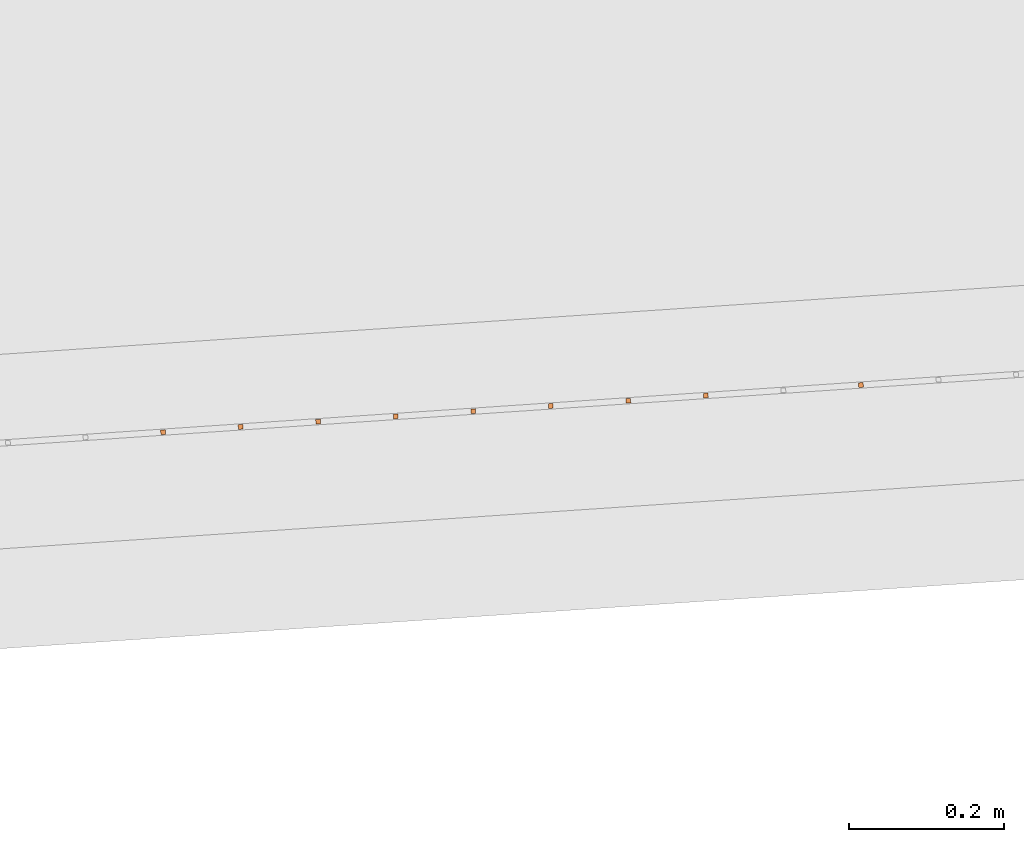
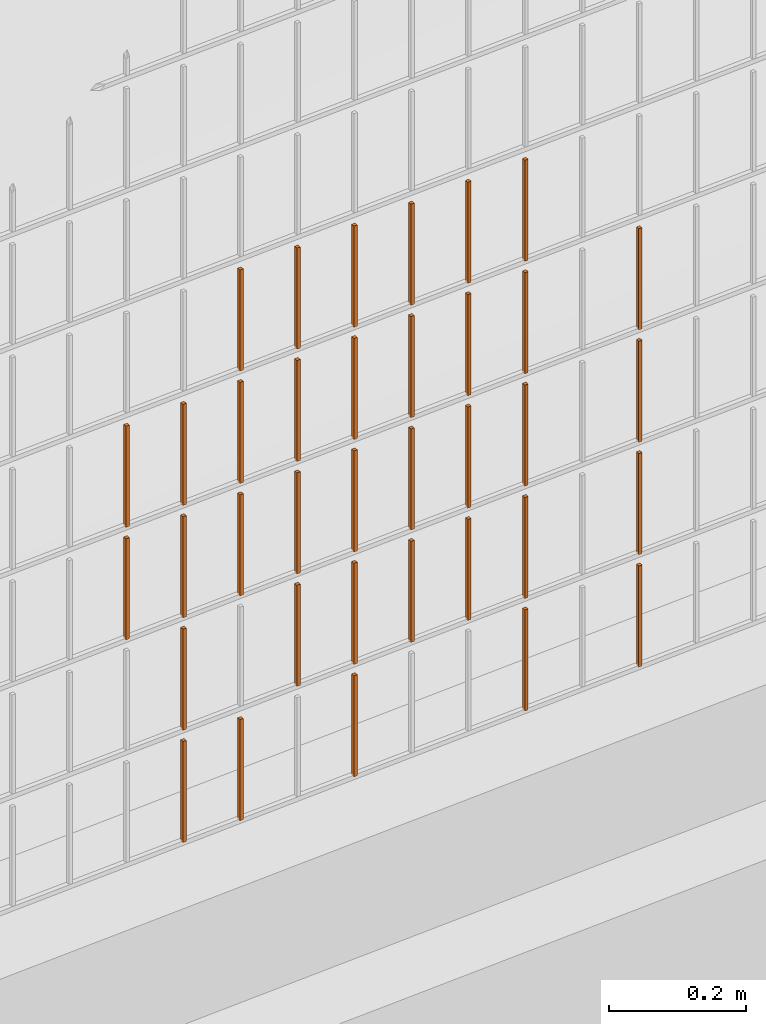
# One storey, part 142 of 1809: 36 proxies, 1 element without a shape of its own.
"""IFC2X3 building model written with IfcOpenShell, lengths in millimetres."""

from ifc_helpers import new_model, entity, si_unit, converted_unit, derived_unit, money_unit, direction, frame, origin_with_axes, place, context, subcontext, project, spatial, faceted_brep, source, transform, mapped, material, type_object, element, aggregate, save


model = new_model("IFC2X3")

# Units and contexts
model_context = context("Model", 3, precision=0.01, world=origin_with_axes(), true_north=direction((0.0, 1.0)))
body_context = subcontext(model_context, "Body", "Model", "MODEL_VIEW")
ifc_project = project(units=[si_unit("LENGTHUNIT", "METRE", prefix="MILLI"), si_unit("AREAUNIT", "SQUARE_METRE"), si_unit("VOLUMEUNIT", "CUBIC_METRE"), converted_unit("PLANEANGLEUNIT", "DEGREE", entity("IfcPlaneAngleMeasure", 0.0174532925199), si_unit("PLANEANGLEUNIT", "RADIAN"), dimensions=[0, 0, 0, 0, 0, 0, 0]), si_unit("SOLIDANGLEUNIT", "STERADIAN"), money_unit("EUR"), converted_unit("TIMEUNIT", "Year", entity("IfcTimeMeasure", 31556926.0), si_unit("TIMEUNIT", "SECOND"), dimensions=[0, 0, 1, 0, 0, 0, 0]), si_unit("MASSUNIT", "GRAM", prefix="KILO"), si_unit("THERMODYNAMICTEMPERATUREUNIT", "DEGREE_CELSIUS"), si_unit("LUMINOUSINTENSITYUNIT", "LUMEN"), si_unit("ENERGYUNIT", "JOULE", prefix="MEGA"), derived_unit("THERMALCONDUCTANCEUNIT", [(si_unit("POWERUNIT", "WATT"), 1), (si_unit("LENGTHUNIT", "METRE"), -1), (si_unit("THERMODYNAMICTEMPERATUREUNIT", "KELVIN"), -1)]), derived_unit("SPECIFICHEATCAPACITYUNIT", [(si_unit("ENERGYUNIT", "JOULE"), 1), (si_unit("MASSUNIT", "GRAM", prefix="KILO"), -1), (si_unit("THERMODYNAMICTEMPERATUREUNIT", "KELVIN"), -1)]), derived_unit("MASSDENSITYUNIT", [(si_unit("MASSUNIT", "GRAM", prefix="KILO"), 1), (si_unit("VOLUMEUNIT", "CUBIC_METRE"), -1)])], contexts=[model_context])

# Site, building, storey
site_placement = place(None, origin_with_axes())
site = spatial("IfcSite", under=ifc_project, at=site_placement, Name="Politse- ja Piirivalveameti ning Päästeameti ühishoone", CompositionType="ELEMENT")
building_placement = place(site_placement, origin_with_axes())
building = spatial("IfcBuilding", under=site, at=building_placement, Name="Politse- ja Piirivalveameti ning Päästeameti ühishoone", CompositionType="ELEMENT")
storey_placement = place(building_placement, origin_with_axes())
storey = spatial("IfcBuildingStorey", under=building, at=storey_placement, Name="Esimene korrus", CompositionType="ELEMENT", Elevation=0.0)

# Proxies
building_element_proxy_type_1 = type_object("IfcBuildingElementProxyType", Name="Railing Type", PredefinedType="NOTDEFINED")
proxy_1_placement = place(storey_placement, frame((89252.001212, -29183.4766571, 203.661247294), z_axis=(0.0, 0.0, 1.0), x_axis=(1.0, 0.0, 0.0)))
proxy_1 = element("IfcBuildingElementProxy", 1, at=proxy_1_placement, inside=storey, type_object=building_element_proxy_type_1, Name="PIIRDEAED")
ifc_material = material(Name="ET-03_Raud")
building_element_proxy_type_2 = type_object("IfcBuildingElementProxyType", Name="IfcBuildingElementProxy", PredefinedType="NOTDEFINED")
shared_shape_1 = source(origin_with_axes(), body_context, "Body", "Brep", [
    faceted_brep([(3.0, 3.0, -0.000752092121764), (-3.0, 3.0, -0.000752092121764), (-3.0, 3.0, 179.99926046), (3.0, 3.0, 179.99926046), (3.0, -3.0, 0.000752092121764), (-3.0, -3.0, 0.000752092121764), (-3.0, -3.0, 180.000764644), (3.0, -3.0, 180.000764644)], [[[0, 1, 2, 3]], [[0, 4, 5, 1]], [[1, 5, 6, 2]], [[3, 2, 6, 7]], [[4, 0, 3, 7]], [[5, 4, 7, 6]]]),
])
proxy_2_placement = place(proxy_1_placement, frame((-85432.0182831, -23068.3851878, 805.767999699), z_axis=(0.0, 0.0, 1.0), x_axis=(1.0, 0.0, 0.0)))
proxy_2 = element("IfcBuildingElementProxy", 2, at=proxy_2_placement, type_object=building_element_proxy_type_2, material=ifc_material, Name="BALUSTER - 001", context=body_context, shape_type="MappedRepresentation", body=[
    mapped(shared_shape_1, transform((0.0, 0.0, 0.0), x_axis=(-0.0673926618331, 0.997726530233, 0.0), y_axis=(-0.997726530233, -0.0673926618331, 0.0), z_axis=(0.0, 0.0, 1.0))),
])
shared_shape_2 = source(origin_with_axes(), body_context, "Body", "Brep", [
    faceted_brep([(3.0, 3.0, -0.000752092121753), (-3.0, 3.0, -0.000752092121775), (-3.0, 3.0, 179.99926046), (3.0, 3.0, 179.99926046), (3.0, -3.0, 0.000752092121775), (-3.0, -3.0, 0.000752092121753), (-3.0, -3.0, 180.000764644), (3.0, -3.0, 180.000764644)], [[[0, 1, 2, 3]], [[0, 4, 5, 1]], [[1, 5, 6, 2]], [[3, 2, 6, 7]], [[4, 0, 3, 7]], [[5, 4, 7, 6]]]),
])
proxy_3_placement = place(proxy_1_placement, frame((-85930.8815483, -23102.0815187, 805.642651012), z_axis=(0.0, 0.0, 1.0), x_axis=(1.0, 0.0, 0.0)))
proxy_3 = element("IfcBuildingElementProxy", 3, at=proxy_3_placement, type_object=building_element_proxy_type_2, material=ifc_material, Name="BALUSTER - 001", context=body_context, shape_type="MappedRepresentation", body=[
    mapped(shared_shape_2, transform((0.0, 0.0, 0.0), x_axis=(-0.0673926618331, 0.997726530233, 0.0), y_axis=(-0.997726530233, -0.0673926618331, 0.0), z_axis=(0.0, 0.0, 1.0))),
])
shared_shape_3 = source(origin_with_axes(), body_context, "Body", "Brep", [
    faceted_brep([(3.0, 3.0, -0.000752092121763), (-3.0, 3.0, -0.000752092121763), (-3.0, 3.0, 179.99926046), (3.0, 3.0, 179.99926046), (3.0, -3.0, 0.000752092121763), (-3.0, -3.0, 0.000752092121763), (-3.0, -3.0, 180.000764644), (3.0, -3.0, 180.000764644)], [[[0, 1, 2, 3]], [[0, 4, 5, 1]], [[1, 5, 6, 2]], [[3, 2, 6, 7]], [[4, 0, 3, 7]], [[5, 4, 7, 6]]]),
])
proxy_4_placement = place(proxy_1_placement, frame((-85232.4729771, -23054.9066555, 205.818139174), z_axis=(0.0, 0.0, 1.0), x_axis=(1.0, 0.0, 0.0)))
proxy_4 = element("IfcBuildingElementProxy", 4, at=proxy_4_placement, type_object=building_element_proxy_type_2, material=ifc_material, Name="BALUSTER - 001", context=body_context, shape_type="MappedRepresentation", body=[
    mapped(shared_shape_3, transform((0.0, 0.0, 0.0), x_axis=(-0.0673926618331, 0.997726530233, 0.0), y_axis=(-0.997726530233, -0.0673926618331, 0.0), z_axis=(0.0, 0.0, 1.0))),
])
proxy_5_placement = place(proxy_1_placement, frame((-85232.4729771, -23054.9066555, 405.818139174), z_axis=(0.0, 0.0, 1.0), x_axis=(1.0, 0.0, 0.0)))
proxy_5 = element("IfcBuildingElementProxy", 5, at=proxy_5_placement, type_object=building_element_proxy_type_2, material=ifc_material, Name="BALUSTER - 001", context=body_context, shape_type="MappedRepresentation", body=[
    mapped(shared_shape_3, transform((0.0, 0.0, 0.0), x_axis=(-0.0673926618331, 0.997726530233, 0.0), y_axis=(-0.997726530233, -0.0673926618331, 0.0), z_axis=(0.0, 0.0, 1.0))),
])
proxy_6_placement = place(proxy_1_placement, frame((-85232.4729771, -23054.9066555, 605.818139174), z_axis=(0.0, 0.0, 1.0), x_axis=(1.0, 0.0, 0.0)))
proxy_6 = element("IfcBuildingElementProxy", 6, at=proxy_6_placement, type_object=building_element_proxy_type_2, material=ifc_material, Name="BALUSTER - 001", context=body_context, shape_type="MappedRepresentation", body=[
    mapped(shared_shape_3, transform((0.0, 0.0, 0.0), x_axis=(-0.0673926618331, 0.997726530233, 0.0), y_axis=(-0.997726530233, -0.0673926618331, 0.0), z_axis=(0.0, 0.0, 1.0))),
])
shared_shape_4 = source(origin_with_axes(), body_context, "Body", "Brep", [
    faceted_brep([(3.0, 3.0, -0.000752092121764), (-3.0, 3.0, -0.000752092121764), (-3.0, 3.0, 179.99926046), (3.0, 3.0, 179.99926046), (3.0, -3.0, 0.000752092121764), (-3.0, -3.0, 0.000752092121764), (-3.0, -3.0, 180.000764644), (3.0, -3.0, 180.000764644)], [[[0, 1, 2, 3]], [[0, 4, 5, 1]], [[1, 5, 6, 2]], [[3, 2, 6, 7]], [[4, 0, 3, 7]], [[5, 4, 7, 6]]]),
])
proxy_7_placement = place(proxy_1_placement, frame((-85232.4729771, -23054.9066555, 5.81813917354), z_axis=(0.0, 0.0, 1.0), x_axis=(1.0, 0.0, 0.0)))
proxy_7 = element("IfcBuildingElementProxy", 7, at=proxy_7_placement, type_object=building_element_proxy_type_2, material=ifc_material, Name="BALUSTER - 001", context=body_context, shape_type="MappedRepresentation", body=[
    mapped(shared_shape_4, transform((0.0, 0.0, 0.0), x_axis=(-0.0673926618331, 0.997726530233, 0.0), y_axis=(-0.997726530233, -0.0673926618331, 0.0), z_axis=(0.0, 0.0, 1.0))),
])
shared_shape_5 = source(origin_with_axes(), body_context, "Body", "Brep", [
    faceted_brep([(3.0, 3.0, -0.000752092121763), (-3.0, 3.0, -0.000752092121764), (-3.0, 3.0, 179.99926046), (3.0, 3.0, 179.99926046), (3.0, -3.0, 0.000752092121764), (-3.0, -3.0, 0.000752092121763), (-3.0, -3.0, 180.000764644), (3.0, -3.0, 180.000764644)], [[[0, 1, 2, 3]], [[0, 4, 5, 1]], [[1, 5, 6, 2]], [[3, 2, 6, 7]], [[4, 0, 3, 7]], [[5, 4, 7, 6]]]),
])
proxy_8_placement = place(proxy_1_placement, frame((-85432.0182831, -23068.3851878, 5.76799969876), z_axis=(0.0, 0.0, 1.0), x_axis=(1.0, 0.0, 0.0)))
proxy_8 = element("IfcBuildingElementProxy", 8, at=proxy_8_placement, type_object=building_element_proxy_type_2, material=ifc_material, Name="BALUSTER - 001", context=body_context, shape_type="MappedRepresentation", body=[
    mapped(shared_shape_5, transform((0.0, 0.0, 0.0), x_axis=(-0.0673926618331, 0.997726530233, 0.0), y_axis=(-0.997726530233, -0.0673926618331, 0.0), z_axis=(0.0, 0.0, 1.0))),
])
shared_shape_6 = source(origin_with_axes(), body_context, "Body", "Brep", [
    faceted_brep([(3.0, 3.0, -0.000752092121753), (-3.0, 3.0, -0.000752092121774), (-3.0, 3.0, 179.99926046), (3.0, 3.0, 179.99926046), (3.0, -3.0, 0.000752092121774), (-3.0, -3.0, 0.000752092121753), (-3.0, -3.0, 180.000764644), (3.0, -3.0, 180.000764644)], [[[0, 1, 2, 3]], [[0, 4, 5, 1]], [[1, 5, 6, 2]], [[3, 2, 6, 7]], [[4, 0, 3, 7]], [[5, 4, 7, 6]]]),
])
proxy_9_placement = place(proxy_1_placement, frame((-85731.3362422, -23088.6029864, 5.69279048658), z_axis=(0.0, 0.0, 1.0), x_axis=(1.0, 0.0, 0.0)))
proxy_9 = element("IfcBuildingElementProxy", 9, at=proxy_9_placement, type_object=building_element_proxy_type_2, material=ifc_material, Name="BALUSTER - 001", context=body_context, shape_type="MappedRepresentation", body=[
    mapped(shared_shape_6, transform((0.0, 0.0, 0.0), x_axis=(-0.0673926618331, 0.997726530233, 0.0), y_axis=(-0.997726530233, -0.0673926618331, 0.0), z_axis=(0.0, 0.0, 1.0))),
])
shared_shape_7 = source(origin_with_axes(), body_context, "Body", "Brep", [
    faceted_brep([(3.0, 3.0, -0.000752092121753), (-3.0, 3.0, -0.000752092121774), (-3.0, 3.0, 179.99926046), (3.0, 3.0, 179.99926046), (3.0, -3.0, 0.000752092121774), (-3.0, -3.0, 0.000752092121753), (-3.0, -3.0, 180.000764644), (3.0, -3.0, 180.000764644)], [[[0, 1, 2, 3]], [[0, 4, 5, 1]], [[1, 5, 6, 2]], [[3, 2, 6, 7]], [[4, 0, 3, 7]], [[5, 4, 7, 6]]]),
])
proxy_10_placement = place(proxy_1_placement, frame((-85930.8815483, -23102.0815187, 5.6426510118), z_axis=(0.0, 0.0, 1.0), x_axis=(1.0, 0.0, 0.0)))
proxy_10 = element("IfcBuildingElementProxy", 10, at=proxy_10_placement, type_object=building_element_proxy_type_2, material=ifc_material, Name="BALUSTER - 001", context=body_context, shape_type="MappedRepresentation", body=[
    mapped(shared_shape_7, transform((0.0, 0.0, 0.0), x_axis=(-0.0673926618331, 0.997726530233, 0.0), y_axis=(-0.997726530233, -0.0673926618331, 0.0), z_axis=(0.0, 0.0, 1.0))),
])
shared_shape_8 = source(origin_with_axes(), body_context, "Body", "Brep", [
    faceted_brep([(3.0, 3.0, -0.000752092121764), (-3.0, 3.0, -0.000752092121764), (-3.0, 3.0, 179.99926046), (3.0, 3.0, 179.99926046), (3.0, -3.0, 0.000752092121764), (-3.0, -3.0, 0.000752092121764), (-3.0, -3.0, 180.000764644), (3.0, -3.0, 180.000764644)], [[[0, 1, 2, 3]], [[0, 4, 5, 1]], [[1, 5, 6, 2]], [[3, 2, 6, 7]], [[4, 0, 3, 7]], [[5, 4, 7, 6]]]),
])
proxy_11_placement = place(proxy_1_placement, frame((-86030.6542013, -23108.8207849, 5.6175812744), z_axis=(0.0, 0.0, 1.0), x_axis=(1.0, 0.0, 0.0)))
proxy_11 = element("IfcBuildingElementProxy", 11, at=proxy_11_placement, type_object=building_element_proxy_type_2, material=ifc_material, Name="BALUSTER - 001", context=body_context, shape_type="MappedRepresentation", body=[
    mapped(shared_shape_8, transform((0.0, 0.0, 0.0), x_axis=(-0.0673926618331, 0.997726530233, 0.0), y_axis=(-0.997726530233, -0.0673926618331, 0.0), z_axis=(0.0, 0.0, 1.0))),
])
proxy_12_placement = place(proxy_1_placement, frame((-86030.6542013, -23108.8207849, 205.617581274), z_axis=(0.0, 0.0, 1.0), x_axis=(1.0, 0.0, 0.0)))
proxy_12 = element("IfcBuildingElementProxy", 12, at=proxy_12_placement, type_object=building_element_proxy_type_2, material=ifc_material, Name="BALUSTER - 001", context=body_context, shape_type="MappedRepresentation", body=[
    mapped(shared_shape_8, transform((0.0, 0.0, 0.0), x_axis=(-0.0673926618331, 0.997726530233, 0.0), y_axis=(-0.997726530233, -0.0673926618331, 0.0), z_axis=(0.0, 0.0, 1.0))),
])
shared_shape_9 = source(origin_with_axes(), body_context, "Body", "Brep", [
    faceted_brep([(3.0, 3.0, -0.000752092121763), (-3.0, 3.0, -0.000752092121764), (-3.0, 3.0, 179.99926046), (3.0, 3.0, 179.99926046), (3.0, -3.0, 0.000752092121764), (-3.0, -3.0, 0.000752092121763), (-3.0, -3.0, 180.000764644), (3.0, -3.0, 180.000764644)], [[[0, 1, 2, 3]], [[0, 4, 5, 1]], [[1, 5, 6, 2]], [[3, 2, 6, 7]], [[4, 0, 3, 7]], [[5, 4, 7, 6]]]),
])
proxy_13_placement = place(proxy_1_placement, frame((-85432.0182831, -23068.3851878, 205.767999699), z_axis=(0.0, 0.0, 1.0), x_axis=(1.0, 0.0, 0.0)))
proxy_13 = element("IfcBuildingElementProxy", 13, at=proxy_13_placement, type_object=building_element_proxy_type_2, material=ifc_material, Name="BALUSTER - 001", context=body_context, shape_type="MappedRepresentation", body=[
    mapped(shared_shape_9, transform((0.0, 0.0, 0.0), x_axis=(-0.0673926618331, 0.997726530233, 0.0), y_axis=(-0.997726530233, -0.0673926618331, 0.0), z_axis=(0.0, 0.0, 1.0))),
])
shared_shape_10 = source(origin_with_axes(), body_context, "Body", "Brep", [
    faceted_brep([(3.0, 3.0, -0.000752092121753), (-3.0, 3.0, -0.000752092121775), (-3.0, 3.0, 179.99926046), (3.0, 3.0, 179.99926046), (3.0, -3.0, 0.000752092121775), (-3.0, -3.0, 0.000752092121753), (-3.0, -3.0, 180.000764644), (3.0, -3.0, 180.000764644)], [[[0, 1, 2, 3]], [[0, 4, 5, 1]], [[1, 5, 6, 2]], [[3, 2, 6, 7]], [[4, 0, 3, 7]], [[5, 4, 7, 6]]]),
])
proxy_14_placement = place(proxy_1_placement, frame((-85531.7909362, -23075.124454, 205.742929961), z_axis=(0.0, 0.0, 1.0), x_axis=(1.0, 0.0, 0.0)))
proxy_14 = element("IfcBuildingElementProxy", 14, at=proxy_14_placement, type_object=building_element_proxy_type_2, material=ifc_material, Name="BALUSTER - 001", context=body_context, shape_type="MappedRepresentation", body=[
    mapped(shared_shape_10, transform((0.0, 0.0, 0.0), x_axis=(-0.0673926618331, 0.997726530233, 0.0), y_axis=(-0.997726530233, -0.0673926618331, 0.0), z_axis=(0.0, 0.0, 1.0))),
])
shared_shape_11 = source(origin_with_axes(), body_context, "Body", "Brep", [
    faceted_brep([(3.0, 3.0, -0.000752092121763), (-3.0, 3.0, -0.000752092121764), (-3.0, 3.0, 179.99926046), (3.0, 3.0, 179.99926046), (3.0, -3.0, 0.000752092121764), (-3.0, -3.0, 0.000752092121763), (-3.0, -3.0, 180.000764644), (3.0, -3.0, 180.000764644)], [[[0, 1, 2, 3]], [[0, 4, 5, 1]], [[1, 5, 6, 2]], [[3, 2, 6, 7]], [[4, 0, 3, 7]], [[5, 4, 7, 6]]]),
])
proxy_15_placement = place(proxy_1_placement, frame((-85631.5635892, -23081.8637202, 205.717860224), z_axis=(0.0, 0.0, 1.0), x_axis=(1.0, 0.0, 0.0)))
proxy_15 = element("IfcBuildingElementProxy", 15, at=proxy_15_placement, type_object=building_element_proxy_type_2, material=ifc_material, Name="BALUSTER - 001", context=body_context, shape_type="MappedRepresentation", body=[
    mapped(shared_shape_11, transform((0.0, 0.0, 0.0), x_axis=(-0.0673926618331, 0.997726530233, 0.0), y_axis=(-0.997726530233, -0.0673926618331, 0.0), z_axis=(0.0, 0.0, 1.0))),
])
proxy_16_placement = place(proxy_1_placement, frame((-85432.0182831, -23068.3851878, 405.767999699), z_axis=(0.0, 0.0, 1.0), x_axis=(1.0, 0.0, 0.0)))
proxy_16 = element("IfcBuildingElementProxy", 16, at=proxy_16_placement, type_object=building_element_proxy_type_2, material=ifc_material, Name="BALUSTER - 001", context=body_context, shape_type="MappedRepresentation", body=[
    mapped(shared_shape_11, transform((0.0, 0.0, 0.0), x_axis=(-0.0673926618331, 0.997726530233, 0.0), y_axis=(-0.997726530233, -0.0673926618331, 0.0), z_axis=(0.0, 0.0, 1.0))),
])
proxy_17_placement = place(proxy_1_placement, frame((-85631.5635892, -23081.8637202, 605.717860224), z_axis=(0.0, 0.0, 1.0), x_axis=(1.0, 0.0, 0.0)))
proxy_17 = element("IfcBuildingElementProxy", 17, at=proxy_17_placement, type_object=building_element_proxy_type_2, material=ifc_material, Name="BALUSTER - 001", context=body_context, shape_type="MappedRepresentation", body=[
    mapped(shared_shape_11, transform((0.0, 0.0, 0.0), x_axis=(-0.0673926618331, 0.997726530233, 0.0), y_axis=(-0.997726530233, -0.0673926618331, 0.0), z_axis=(0.0, 0.0, 1.0))),
])
shared_shape_12 = source(origin_with_axes(), body_context, "Body", "Brep", [
    faceted_brep([(3.0, 3.0, -0.000752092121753), (-3.0, 3.0, -0.000752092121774), (-3.0, 3.0, 179.99926046), (3.0, 3.0, 179.99926046), (3.0, -3.0, 0.000752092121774), (-3.0, -3.0, 0.000752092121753), (-3.0, -3.0, 180.000764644), (3.0, -3.0, 180.000764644)], [[[0, 1, 2, 3]], [[0, 4, 5, 1]], [[1, 5, 6, 2]], [[3, 2, 6, 7]], [[4, 0, 3, 7]], [[5, 4, 7, 6]]]),
])
proxy_18_placement = place(proxy_1_placement, frame((-85731.3362422, -23088.6029864, 205.692790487), z_axis=(0.0, 0.0, 1.0), x_axis=(1.0, 0.0, 0.0)))
proxy_18 = element("IfcBuildingElementProxy", 18, at=proxy_18_placement, type_object=building_element_proxy_type_2, material=ifc_material, Name="BALUSTER - 001", context=body_context, shape_type="MappedRepresentation", body=[
    mapped(shared_shape_12, transform((0.0, 0.0, 0.0), x_axis=(-0.0673926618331, 0.997726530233, 0.0), y_axis=(-0.997726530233, -0.0673926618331, 0.0), z_axis=(0.0, 0.0, 1.0))),
])
proxy_19_placement = place(proxy_1_placement, frame((-85731.3362422, -23088.6029864, 405.692790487), z_axis=(0.0, 0.0, 1.0), x_axis=(1.0, 0.0, 0.0)))
proxy_19 = element("IfcBuildingElementProxy", 19, at=proxy_19_placement, type_object=building_element_proxy_type_2, material=ifc_material, Name="BALUSTER - 001", context=body_context, shape_type="MappedRepresentation", body=[
    mapped(shared_shape_12, transform((0.0, 0.0, 0.0), x_axis=(-0.0673926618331, 0.997726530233, 0.0), y_axis=(-0.997726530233, -0.0673926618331, 0.0), z_axis=(0.0, 0.0, 1.0))),
])
proxy_20_placement = place(proxy_1_placement, frame((-85930.8815483, -23102.0815187, 405.642651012), z_axis=(0.0, 0.0, 1.0), x_axis=(1.0, 0.0, 0.0)))
proxy_20 = element("IfcBuildingElementProxy", 20, at=proxy_20_placement, type_object=building_element_proxy_type_2, material=ifc_material, Name="BALUSTER - 001", context=body_context, shape_type="MappedRepresentation", body=[
    mapped(shared_shape_12, transform((0.0, 0.0, 0.0), x_axis=(-0.0673926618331, 0.997726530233, 0.0), y_axis=(-0.997726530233, -0.0673926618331, 0.0), z_axis=(0.0, 0.0, 1.0))),
])
proxy_21_placement = place(proxy_1_placement, frame((-85930.8815483, -23102.0815187, 605.642651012), z_axis=(0.0, 0.0, 1.0), x_axis=(1.0, 0.0, 0.0)))
proxy_21 = element("IfcBuildingElementProxy", 21, at=proxy_21_placement, type_object=building_element_proxy_type_2, material=ifc_material, Name="BALUSTER - 001", context=body_context, shape_type="MappedRepresentation", body=[
    mapped(shared_shape_12, transform((0.0, 0.0, 0.0), x_axis=(-0.0673926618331, 0.997726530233, 0.0), y_axis=(-0.997726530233, -0.0673926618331, 0.0), z_axis=(0.0, 0.0, 1.0))),
])
shared_shape_13 = source(origin_with_axes(), body_context, "Body", "Brep", [
    faceted_brep([(3.0, 3.0, -0.000752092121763), (-3.0, 3.0, -0.000752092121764), (-3.0, 3.0, 179.99926046), (3.0, 3.0, 179.99926046), (3.0, -3.0, 0.000752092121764), (-3.0, -3.0, 0.000752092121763), (-3.0, -3.0, 180.000764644), (3.0, -3.0, 180.000764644)], [[[0, 1, 2, 3]], [[0, 4, 5, 1]], [[1, 5, 6, 2]], [[3, 2, 6, 7]], [[4, 0, 3, 7]], [[5, 4, 7, 6]]]),
])
proxy_22_placement = place(proxy_1_placement, frame((-85831.1088952, -23095.3422526, 205.667720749), z_axis=(0.0, 0.0, 1.0), x_axis=(1.0, 0.0, 0.0)))
proxy_22 = element("IfcBuildingElementProxy", 22, at=proxy_22_placement, type_object=building_element_proxy_type_2, material=ifc_material, Name="BALUSTER - 001", context=body_context, shape_type="MappedRepresentation", body=[
    mapped(shared_shape_13, transform((0.0, 0.0, 0.0), x_axis=(-0.0673926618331, 0.997726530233, 0.0), y_axis=(-0.997726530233, -0.0673926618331, 0.0), z_axis=(0.0, 0.0, 1.0))),
])
shared_shape_14 = source(origin_with_axes(), body_context, "Body", "Brep", [
    faceted_brep([(3.0, 3.0, -0.000752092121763), (-3.0, 3.0, -0.000752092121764), (-3.0, 3.0, 179.99926046), (3.0, 3.0, 179.99926046), (3.0, -3.0, 0.000752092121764), (-3.0, -3.0, 0.000752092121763), (-3.0, -3.0, 180.000764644), (3.0, -3.0, 180.000764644)], [[[0, 1, 2, 3]], [[0, 4, 5, 1]], [[1, 5, 6, 2]], [[3, 2, 6, 7]], [[4, 0, 3, 7]], [[5, 4, 7, 6]]]),
])
proxy_23_placement = place(proxy_1_placement, frame((-85831.1088952, -23095.3422526, 405.667720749), z_axis=(0.0, 0.0, 1.0), x_axis=(1.0, 0.0, 0.0)))
proxy_23 = element("IfcBuildingElementProxy", 23, at=proxy_23_placement, type_object=building_element_proxy_type_2, material=ifc_material, Name="BALUSTER - 001", context=body_context, shape_type="MappedRepresentation", body=[
    mapped(shared_shape_14, transform((0.0, 0.0, 0.0), x_axis=(-0.0673926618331, 0.997726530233, 0.0), y_axis=(-0.997726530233, -0.0673926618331, 0.0), z_axis=(0.0, 0.0, 1.0))),
])
proxy_24_placement = place(proxy_1_placement, frame((-85831.1088952, -23095.3422526, 605.667720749), z_axis=(0.0, 0.0, 1.0), x_axis=(1.0, 0.0, 0.0)))
proxy_24 = element("IfcBuildingElementProxy", 24, at=proxy_24_placement, type_object=building_element_proxy_type_2, material=ifc_material, Name="BALUSTER - 001", context=body_context, shape_type="MappedRepresentation", body=[
    mapped(shared_shape_14, transform((0.0, 0.0, 0.0), x_axis=(-0.0673926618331, 0.997726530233, 0.0), y_axis=(-0.997726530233, -0.0673926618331, 0.0), z_axis=(0.0, 0.0, 1.0))),
])
shared_shape_15 = source(origin_with_axes(), body_context, "Body", "Brep", [
    faceted_brep([(3.0, 3.0, -0.000752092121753), (-3.0, 3.0, -0.000752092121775), (-3.0, 3.0, 179.99926046), (3.0, 3.0, 179.99926046), (3.0, -3.0, 0.000752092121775), (-3.0, -3.0, 0.000752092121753), (-3.0, -3.0, 180.000764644), (3.0, -3.0, 180.000764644)], [[[0, 1, 2, 3]], [[0, 4, 5, 1]], [[1, 5, 6, 2]], [[3, 2, 6, 7]], [[4, 0, 3, 7]], [[5, 4, 7, 6]]]),
])
proxy_25_placement = place(proxy_1_placement, frame((-85531.7909362, -23075.124454, 405.742929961), z_axis=(0.0, 0.0, 1.0), x_axis=(1.0, 0.0, 0.0)))
proxy_25 = element("IfcBuildingElementProxy", 25, at=proxy_25_placement, type_object=building_element_proxy_type_2, material=ifc_material, Name="BALUSTER - 001", context=body_context, shape_type="MappedRepresentation", body=[
    mapped(shared_shape_15, transform((0.0, 0.0, 0.0), x_axis=(-0.0673926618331, 0.997726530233, 0.0), y_axis=(-0.997726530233, -0.0673926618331, 0.0), z_axis=(0.0, 0.0, 1.0))),
])
shared_shape_16 = source(origin_with_axes(), body_context, "Body", "Brep", [
    faceted_brep([(3.0, 3.0, -0.000752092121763), (-3.0, 3.0, -0.000752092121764), (-3.0, 3.0, 179.99926046), (3.0, 3.0, 179.99926046), (3.0, -3.0, 0.000752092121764), (-3.0, -3.0, 0.000752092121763), (-3.0, -3.0, 180.000764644), (3.0, -3.0, 180.000764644)], [[[0, 1, 2, 3]], [[0, 4, 5, 1]], [[1, 5, 6, 2]], [[3, 2, 6, 7]], [[4, 0, 3, 7]], [[5, 4, 7, 6]]]),
])
proxy_26_placement = place(proxy_1_placement, frame((-85631.5635892, -23081.8637202, 405.717860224), z_axis=(0.0, 0.0, 1.0), x_axis=(1.0, 0.0, 0.0)))
proxy_26 = element("IfcBuildingElementProxy", 26, at=proxy_26_placement, type_object=building_element_proxy_type_2, material=ifc_material, Name="BALUSTER - 001", context=body_context, shape_type="MappedRepresentation", body=[
    mapped(shared_shape_16, transform((0.0, 0.0, 0.0), x_axis=(-0.0673926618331, 0.997726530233, 0.0), y_axis=(-0.997726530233, -0.0673926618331, 0.0), z_axis=(0.0, 0.0, 1.0))),
])
shared_shape_17 = source(origin_with_axes(), body_context, "Body", "Brep", [
    faceted_brep([(3.0, 3.0, -0.000752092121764), (-3.0, 3.0, -0.000752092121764), (-3.0, 3.0, 179.99926046), (3.0, 3.0, 179.99926046), (3.0, -3.0, 0.000752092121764), (-3.0, -3.0, 0.000752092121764), (-3.0, -3.0, 180.000764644), (3.0, -3.0, 180.000764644)], [[[0, 1, 2, 3]], [[0, 4, 5, 1]], [[1, 5, 6, 2]], [[3, 2, 6, 7]], [[4, 0, 3, 7]], [[5, 4, 7, 6]]]),
])
proxy_27_placement = place(proxy_1_placement, frame((-86030.6542013, -23108.8207849, 405.617581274), z_axis=(0.0, 0.0, 1.0), x_axis=(1.0, 0.0, 0.0)))
proxy_27 = element("IfcBuildingElementProxy", 27, at=proxy_27_placement, type_object=building_element_proxy_type_2, material=ifc_material, Name="BALUSTER - 001", context=body_context, shape_type="MappedRepresentation", body=[
    mapped(shared_shape_17, transform((0.0, 0.0, 0.0), x_axis=(-0.0673926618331, 0.997726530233, 0.0), y_axis=(-0.997726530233, -0.0673926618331, 0.0), z_axis=(0.0, 0.0, 1.0))),
])
shared_shape_18 = source(origin_with_axes(), body_context, "Body", "Brep", [
    faceted_brep([(3.0, 3.0, -0.000752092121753), (-3.0, 3.0, -0.000752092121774), (-3.0, 3.0, 179.99926046), (3.0, 3.0, 179.99926046), (3.0, -3.0, 0.000752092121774), (-3.0, -3.0, 0.000752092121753), (-3.0, -3.0, 180.000764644), (3.0, -3.0, 180.000764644)], [[[0, 1, 2, 3]], [[0, 4, 5, 1]], [[1, 5, 6, 2]], [[3, 2, 6, 7]], [[4, 0, 3, 7]], [[5, 4, 7, 6]]]),
])
proxy_28_placement = place(proxy_1_placement, frame((-86130.4268543, -23115.5600511, 405.592511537), z_axis=(0.0, 0.0, 1.0), x_axis=(1.0, 0.0, 0.0)))
proxy_28 = element("IfcBuildingElementProxy", 28, at=proxy_28_placement, type_object=building_element_proxy_type_2, material=ifc_material, Name="BALUSTER - 001", context=body_context, shape_type="MappedRepresentation", body=[
    mapped(shared_shape_18, transform((0.0, 0.0, 0.0), x_axis=(-0.0673926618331, 0.997726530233, 0.0), y_axis=(-0.997726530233, -0.0673926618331, 0.0), z_axis=(0.0, 0.0, 1.0))),
])
proxy_29_placement = place(proxy_1_placement, frame((-86130.4268543, -23115.5600511, 605.592511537), z_axis=(0.0, 0.0, 1.0), x_axis=(1.0, 0.0, 0.0)))
proxy_29 = element("IfcBuildingElementProxy", 29, at=proxy_29_placement, type_object=building_element_proxy_type_2, material=ifc_material, Name="BALUSTER - 001", context=body_context, shape_type="MappedRepresentation", body=[
    mapped(shared_shape_18, transform((0.0, 0.0, 0.0), x_axis=(-0.0673926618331, 0.997726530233, 0.0), y_axis=(-0.997726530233, -0.0673926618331, 0.0), z_axis=(0.0, 0.0, 1.0))),
])
shared_shape_19 = source(origin_with_axes(), body_context, "Body", "Brep", [
    faceted_brep([(3.0, 3.0, -0.000752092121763), (-3.0, 3.0, -0.000752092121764), (-3.0, 3.0, 179.99926046), (3.0, 3.0, 179.99926046), (3.0, -3.0, 0.000752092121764), (-3.0, -3.0, 0.000752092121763), (-3.0, -3.0, 180.000764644), (3.0, -3.0, 180.000764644)], [[[0, 1, 2, 3]], [[0, 4, 5, 1]], [[1, 5, 6, 2]], [[3, 2, 6, 7]], [[4, 0, 3, 7]], [[5, 4, 7, 6]]]),
])
proxy_30_placement = place(proxy_1_placement, frame((-85432.0182831, -23068.3851878, 605.767999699), z_axis=(0.0, 0.0, 1.0), x_axis=(1.0, 0.0, 0.0)))
proxy_30 = element("IfcBuildingElementProxy", 30, at=proxy_30_placement, type_object=building_element_proxy_type_2, material=ifc_material, Name="BALUSTER - 001", context=body_context, shape_type="MappedRepresentation", body=[
    mapped(shared_shape_19, transform((0.0, 0.0, 0.0), x_axis=(-0.0673926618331, 0.997726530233, 0.0), y_axis=(-0.997726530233, -0.0673926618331, 0.0), z_axis=(0.0, 0.0, 1.0))),
])
proxy_31_placement = place(proxy_1_placement, frame((-85631.5635892, -23081.8637202, 805.717860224), z_axis=(0.0, 0.0, 1.0), x_axis=(1.0, 0.0, 0.0)))
proxy_31 = element("IfcBuildingElementProxy", 31, at=proxy_31_placement, type_object=building_element_proxy_type_2, material=ifc_material, Name="BALUSTER - 001", context=body_context, shape_type="MappedRepresentation", body=[
    mapped(shared_shape_19, transform((0.0, 0.0, 0.0), x_axis=(-0.0673926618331, 0.997726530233, 0.0), y_axis=(-0.997726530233, -0.0673926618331, 0.0), z_axis=(0.0, 0.0, 1.0))),
])
shared_shape_20 = source(origin_with_axes(), body_context, "Body", "Brep", [
    faceted_brep([(3.0, 3.0, -0.000752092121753), (-3.0, 3.0, -0.000752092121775), (-3.0, 3.0, 179.99926046), (3.0, 3.0, 179.99926046), (3.0, -3.0, 0.000752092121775), (-3.0, -3.0, 0.000752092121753), (-3.0, -3.0, 180.000764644), (3.0, -3.0, 180.000764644)], [[[0, 1, 2, 3]], [[0, 4, 5, 1]], [[1, 5, 6, 2]], [[3, 2, 6, 7]], [[4, 0, 3, 7]], [[5, 4, 7, 6]]]),
])
proxy_32_placement = place(proxy_1_placement, frame((-85531.7909362, -23075.124454, 605.742929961), z_axis=(0.0, 0.0, 1.0), x_axis=(1.0, 0.0, 0.0)))
proxy_32 = element("IfcBuildingElementProxy", 32, at=proxy_32_placement, type_object=building_element_proxy_type_2, material=ifc_material, Name="BALUSTER - 001", context=body_context, shape_type="MappedRepresentation", body=[
    mapped(shared_shape_20, transform((0.0, 0.0, 0.0), x_axis=(-0.0673926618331, 0.997726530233, 0.0), y_axis=(-0.997726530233, -0.0673926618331, 0.0), z_axis=(0.0, 0.0, 1.0))),
])
proxy_33_placement = place(proxy_1_placement, frame((-85531.7909362, -23075.124454, 805.742929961), z_axis=(0.0, 0.0, 1.0), x_axis=(1.0, 0.0, 0.0)))
proxy_33 = element("IfcBuildingElementProxy", 33, at=proxy_33_placement, type_object=building_element_proxy_type_2, material=ifc_material, Name="BALUSTER - 001", context=body_context, shape_type="MappedRepresentation", body=[
    mapped(shared_shape_20, transform((0.0, 0.0, 0.0), x_axis=(-0.0673926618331, 0.997726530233, 0.0), y_axis=(-0.997726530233, -0.0673926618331, 0.0), z_axis=(0.0, 0.0, 1.0))),
])
shared_shape_21 = source(origin_with_axes(), body_context, "Body", "Brep", [
    faceted_brep([(3.0, 3.0, -0.000752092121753), (-3.0, 3.0, -0.000752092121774), (-3.0, 3.0, 179.99926046), (3.0, 3.0, 179.99926046), (3.0, -3.0, 0.000752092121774), (-3.0, -3.0, 0.000752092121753), (-3.0, -3.0, 180.000764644), (3.0, -3.0, 180.000764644)], [[[0, 1, 2, 3]], [[0, 4, 5, 1]], [[1, 5, 6, 2]], [[3, 2, 6, 7]], [[4, 0, 3, 7]], [[5, 4, 7, 6]]]),
])
proxy_34_placement = place(proxy_1_placement, frame((-85731.3362422, -23088.6029864, 605.692790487), z_axis=(0.0, 0.0, 1.0), x_axis=(1.0, 0.0, 0.0)))
proxy_34 = element("IfcBuildingElementProxy", 34, at=proxy_34_placement, type_object=building_element_proxy_type_2, material=ifc_material, Name="BALUSTER - 001", context=body_context, shape_type="MappedRepresentation", body=[
    mapped(shared_shape_21, transform((0.0, 0.0, 0.0), x_axis=(-0.0673926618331, 0.997726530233, 0.0), y_axis=(-0.997726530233, -0.0673926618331, 0.0), z_axis=(0.0, 0.0, 1.0))),
])
shared_shape_22 = source(origin_with_axes(), body_context, "Body", "Brep", [
    faceted_brep([(3.0, 3.0, -0.000752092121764), (-3.0, 3.0, -0.000752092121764), (-3.0, 3.0, 179.99926046), (3.0, 3.0, 179.99926046), (3.0, -3.0, 0.000752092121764), (-3.0, -3.0, 0.000752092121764), (-3.0, -3.0, 180.000764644), (3.0, -3.0, 180.000764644)], [[[0, 1, 2, 3]], [[0, 4, 5, 1]], [[1, 5, 6, 2]], [[3, 2, 6, 7]], [[4, 0, 3, 7]], [[5, 4, 7, 6]]]),
])
proxy_35_placement = place(proxy_1_placement, frame((-86030.6542013, -23108.8207849, 605.617581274), z_axis=(0.0, 0.0, 1.0), x_axis=(1.0, 0.0, 0.0)))
proxy_35 = element("IfcBuildingElementProxy", 35, at=proxy_35_placement, type_object=building_element_proxy_type_2, material=ifc_material, Name="BALUSTER - 001", context=body_context, shape_type="MappedRepresentation", body=[
    mapped(shared_shape_22, transform((0.0, 0.0, 0.0), x_axis=(-0.0673926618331, 0.997726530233, 0.0), y_axis=(-0.997726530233, -0.0673926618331, 0.0), z_axis=(0.0, 0.0, 1.0))),
])
shared_shape_23 = source(origin_with_axes(), body_context, "Body", "Brep", [
    faceted_brep([(3.0, 3.0, -0.000752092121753), (-3.0, 3.0, -0.000752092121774), (-3.0, 3.0, 179.99926046), (3.0, 3.0, 179.99926046), (3.0, -3.0, 0.000752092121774), (-3.0, -3.0, 0.000752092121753), (-3.0, -3.0, 180.000764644), (3.0, -3.0, 180.000764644)], [[[0, 1, 2, 3]], [[0, 4, 5, 1]], [[1, 5, 6, 2]], [[3, 2, 6, 7]], [[4, 0, 3, 7]], [[5, 4, 7, 6]]]),
])
proxy_36_placement = place(proxy_1_placement, frame((-85731.3362422, -23088.6029864, 805.692790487), z_axis=(0.0, 0.0, 1.0), x_axis=(1.0, 0.0, 0.0)))
proxy_36 = element("IfcBuildingElementProxy", 36, at=proxy_36_placement, type_object=building_element_proxy_type_2, material=ifc_material, Name="BALUSTER - 001", context=body_context, shape_type="MappedRepresentation", body=[
    mapped(shared_shape_23, transform((0.0, 0.0, 0.0), x_axis=(-0.0673926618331, 0.997726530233, 0.0), y_axis=(-0.997726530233, -0.0673926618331, 0.0), z_axis=(0.0, 0.0, 1.0))),
])
shared_shape_24 = source(origin_with_axes(), body_context, "Body", "Brep", [
    faceted_brep([(3.0, 3.0, -0.000752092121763), (-3.0, 3.0, -0.000752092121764), (-3.0, 3.0, 179.99926046), (3.0, 3.0, 179.99926046), (3.0, -3.0, 0.000752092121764), (-3.0, -3.0, 0.000752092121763), (-3.0, -3.0, 180.000764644), (3.0, -3.0, 180.000764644)], [[[0, 1, 2, 3]], [[0, 4, 5, 1]], [[1, 5, 6, 2]], [[3, 2, 6, 7]], [[4, 0, 3, 7]], [[5, 4, 7, 6]]]),
])
proxy_37_placement = place(proxy_1_placement, frame((-85831.1088952, -23095.3422526, 805.667720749), z_axis=(0.0, 0.0, 1.0), x_axis=(1.0, 0.0, 0.0)))
proxy_37 = element("IfcBuildingElementProxy", 37, at=proxy_37_placement, type_object=building_element_proxy_type_2, material=ifc_material, Name="BALUSTER - 001", context=body_context, shape_type="MappedRepresentation", body=[
    mapped(shared_shape_24, transform((0.0, 0.0, 0.0), x_axis=(-0.0673926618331, 0.997726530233, 0.0), y_axis=(-0.997726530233, -0.0673926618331, 0.0), z_axis=(0.0, 0.0, 1.0))),
])
aggregate(proxy_1, [proxy_7, proxy_8, proxy_9, proxy_10, proxy_11, proxy_4, proxy_13, proxy_14, proxy_15, proxy_18, proxy_22, proxy_12, proxy_5, proxy_16, proxy_25, proxy_26, proxy_19, proxy_23, proxy_20, proxy_27, proxy_28, proxy_6, proxy_30, proxy_32, proxy_17, proxy_34, proxy_24, proxy_21, proxy_35, proxy_29, proxy_2, proxy_33, proxy_31, proxy_36, proxy_37, proxy_3])

save(model, "model.ifc")
